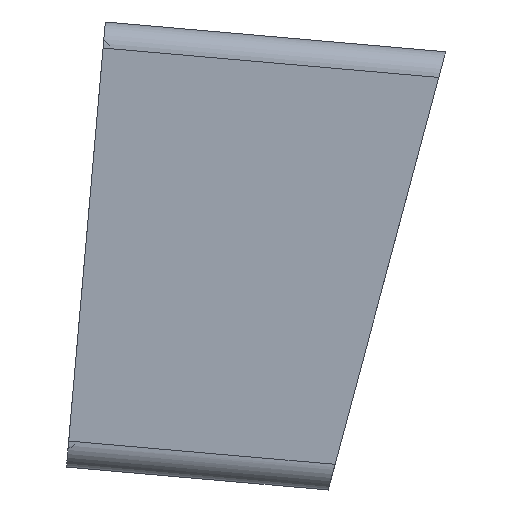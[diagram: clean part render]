
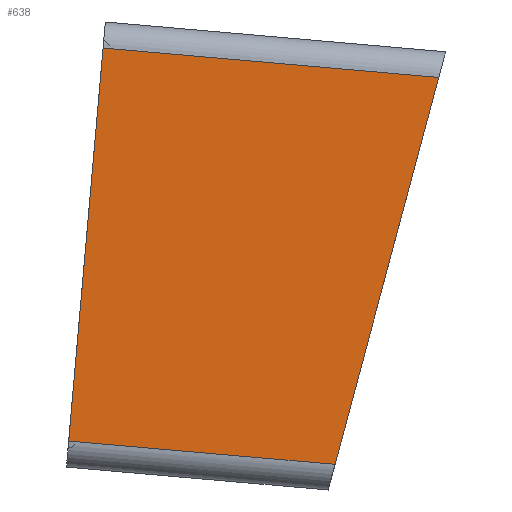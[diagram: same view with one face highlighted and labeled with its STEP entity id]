
A CAD part, left-side view. The second image highlights one B-rep face of the part: STEP entity #638.
In plain terms, the highlighted planar face has unit normal (-1, 0, 0).
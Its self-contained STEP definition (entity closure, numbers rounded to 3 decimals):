
#32=FACE_OUTER_BOUND('',#67,.T.);
#67=EDGE_LOOP('',(#435,#436,#437,#438));
#107=LINE('',#924,#191);
#108=LINE('',#928,#192);
#109=LINE('',#930,#193);
#110=LINE('',#931,#194);
#191=VECTOR('',#750,10.);
#192=VECTOR('',#755,10.);
#193=VECTOR('',#756,10.);
#194=VECTOR('',#757,10.);
#275=VERTEX_POINT('',#921);
#276=VERTEX_POINT('',#923);
#277=VERTEX_POINT('',#927);
#278=VERTEX_POINT('',#929);
#338=EDGE_CURVE('',#276,#275,#107,.T.);
#340=EDGE_CURVE('',#275,#277,#108,.T.);
#341=EDGE_CURVE('',#278,#277,#109,.T.);
#342=EDGE_CURVE('',#276,#278,#110,.T.);
#435=ORIENTED_EDGE('',*,*,#340,.T.);
#436=ORIENTED_EDGE('',*,*,#341,.F.);
#437=ORIENTED_EDGE('',*,*,#342,.F.);
#438=ORIENTED_EDGE('',*,*,#338,.T.);
#605=PLANE('',#691);
#638=ADVANCED_FACE('',(#32),#605,.T.);
#691=AXIS2_PLACEMENT_3D('',#926,#753,#754);
#750=DIRECTION('',(0.,-0.996,-0.087));
#753=DIRECTION('center_axis',(-1.,0.,0.));
#754=DIRECTION('ref_axis',(0.,0.087,-0.996));
#755=DIRECTION('',(0.,-0.259,0.966));
#756=DIRECTION('',(0.,-0.996,-0.087));
#757=DIRECTION('',(0.,-0.087,0.996));
#921=CARTESIAN_POINT('',(-0.5,-0.263,0.981));
#923=CARTESIAN_POINT('',(-0.5,15.014,2.317));
#924=CARTESIAN_POINT('',(-0.5,15.014,2.317));
#926=CARTESIAN_POINT('Origin',(-0.5,13.042,24.851));
#927=CARTESIAN_POINT('',(-0.5,-6.208,23.167));
#928=CARTESIAN_POINT('',(-0.5,-4.287,16.));
#929=CARTESIAN_POINT('',(-0.5,13.042,24.851));
#930=CARTESIAN_POINT('',(-0.5,13.042,24.851));
#931=CARTESIAN_POINT('',(-0.5,15.014,2.317));
